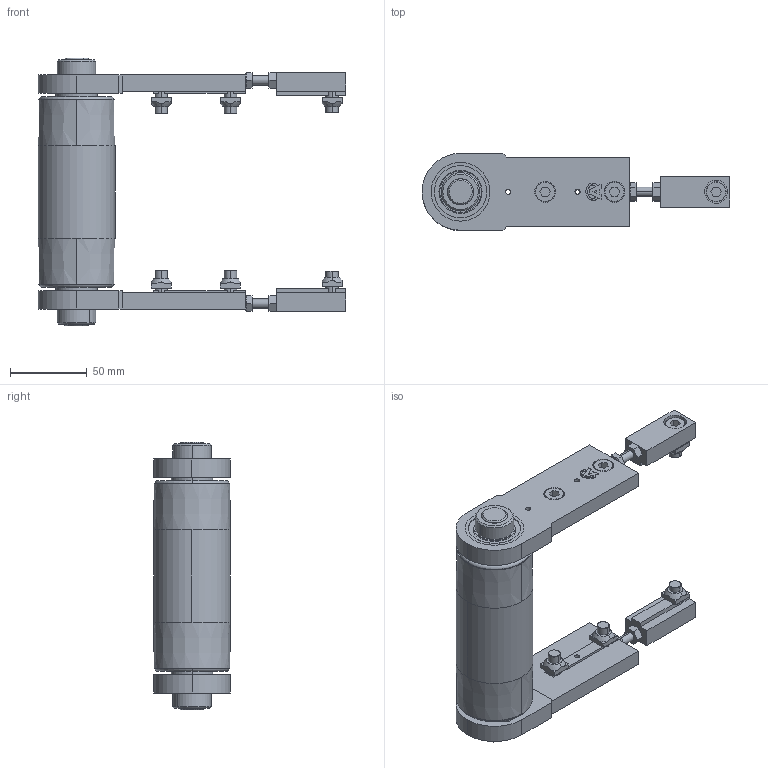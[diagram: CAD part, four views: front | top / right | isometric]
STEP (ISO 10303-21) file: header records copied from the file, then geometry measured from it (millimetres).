
FILE_DESCRIPTION (( 'STEP AP203' ), '1' );
FILE_NAME ('084.050.KIC.100.STEP', '2019-07-29T10:22:30', ( '' ), ( '' ), 'SwSTEP 2.0', 'SolidWorks 2018', '' );
FILE_SCHEMA (( 'CONFIG_CONTROL_DESIGN' ));
Length unit declared in the file: millimetre
Products named in the file (9): 084.802.017_084.802.017; 084.802.008; 084.302.000 DADI ALUSIC 13x13_084.302.004; 084.050.KIC.100; 084.810.001; 084.815.101_Default<A macchina>; 084.301.000 VITI ALUSIC_084.301.003; 084.811.004; 084.807.004_084.807.004
Assembly tree (23 placements, depth 2):
  084.050.KIC.100
    084.807.004_084.807.004  x2
    084.802.017_084.802.017  x2
    084.811.004  x2
    084.810.001  x2
    084.802.008  x2
    084.301.000 VITI ALUSIC_084.301.003  x6
    084.302.000 DADI ALUSIC 13x13_084.302.004  x6
    084.815.101_Default<A macchina>
Bounding box: 200 x 50 x 174 mm (x, y, z)
Volume: 287171.6 mm3; surface area: 154464.2 mm2
Topology: 29 solids, 31 shells, 754 faces, 1878 edges, 1220 vertices
Faces by surface type: plane 348, cylinder 216, torus 76, cone 60, bspline 46, sphere 8
Entity records: 12398 total; most frequent: CARTESIAN_POINT 2384, DIRECTION 1889, ORIENTED_EDGE 1758, EDGE_CURVE 879, AXIS2_PLACEMENT_3D 728, VERTEX_POINT 575, LINE 433, VECTOR 433
